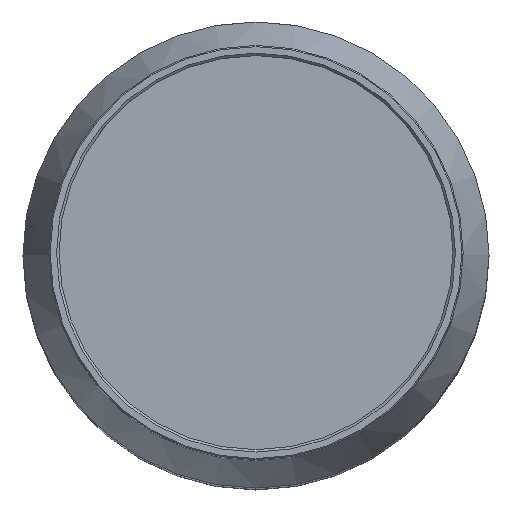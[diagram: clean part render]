
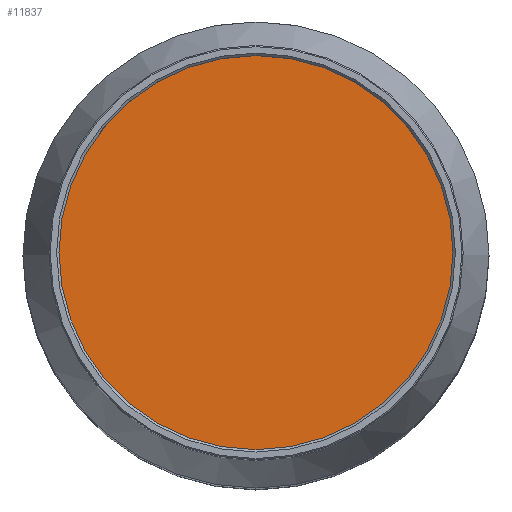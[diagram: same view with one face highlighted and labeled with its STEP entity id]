
A CAD part, top view. The second image highlights one B-rep face of the part: STEP entity #11837.
In plain terms, the highlighted planar face has unit normal (0, 0, 1).
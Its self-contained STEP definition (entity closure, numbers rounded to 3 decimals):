
#2008 = AXIS2_PLACEMENT_3D ( 'NONE', #10665, #3573, #11862 ) ;
#3573 = DIRECTION ( 'NONE',  ( 0., 0., 1. ) ) ;
#4416 = CARTESIAN_POINT ( 'NONE',  ( 0., 0., 195.852 ) ) ;
#5617 = DIRECTION ( 'NONE',  ( 0., -1., 0. ) ) ;
#6156 = CIRCLE ( 'NONE', #2008, 49.46 ) ;
#6605 = ORIENTED_EDGE ( 'NONE', *, *, #12537, .T. ) ;
#6982 = EDGE_LOOP ( 'NONE', ( #6605 ) ) ;
#8082 = VERTEX_POINT ( 'NONE', #9038 ) ;
#8643 = AXIS2_PLACEMENT_3D ( 'NONE', #4416, #12723, #5617 ) ;
#9038 = CARTESIAN_POINT ( 'NONE',  ( 0., -49.46, 195.852 ) ) ;
#10665 = CARTESIAN_POINT ( 'NONE',  ( 0., 0., 195.852 ) ) ;
#10805 = FACE_OUTER_BOUND ( 'NONE', #6982, .T. ) ;
#11521 = PLANE ( 'NONE',  #8643 ) ;
#11837 = ADVANCED_FACE ( 'NONE', ( #10805 ), #11521, .T. ) ;
#11862 = DIRECTION ( 'NONE',  ( 0., -1., 0. ) ) ;
#12537 = EDGE_CURVE ( 'NONE', #8082, #8082, #6156, .T. ) ;
#12723 = DIRECTION ( 'NONE',  ( 0., 0., 1. ) ) ;
